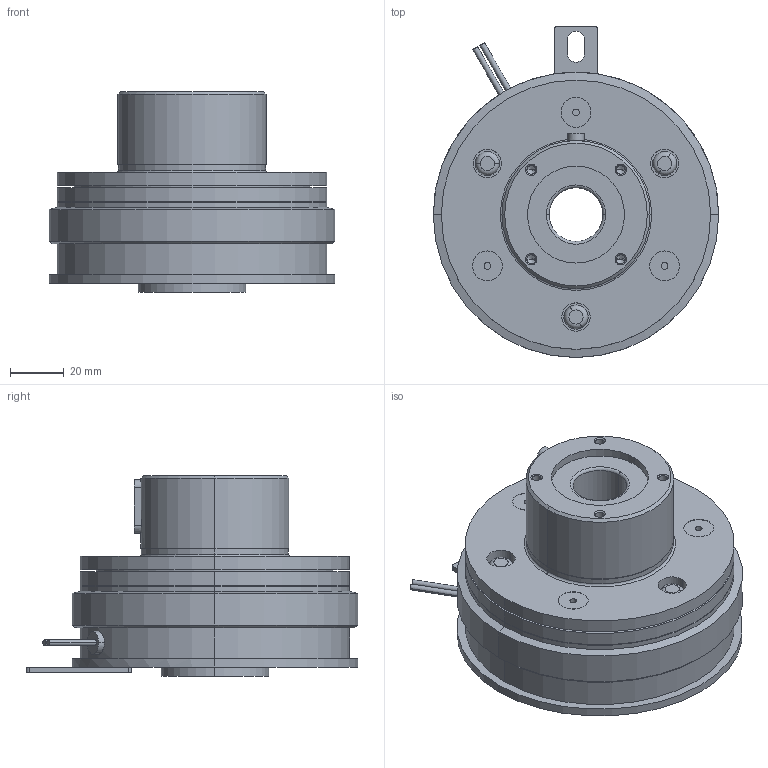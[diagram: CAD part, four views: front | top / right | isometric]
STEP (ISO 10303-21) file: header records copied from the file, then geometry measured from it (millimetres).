
FILE_DESCRIPTION (( 'STEP AP214' ), '1' );
FILE_NAME ('CS-10-35G R20DIN A20DIN.STEP', '2018-02-21T07:23:19', ( 'MIKI' ), ( '' ), 'SwSTEP 2.0', 'SolidWorks 2012', '' );
FILE_SCHEMA (( 'AUTOMOTIVE_DESIGN' ));
Length unit declared in the file: millimetre
Products named in the file (1): CS-10-35G R20DIN A20DIN
Bounding box: 106 x 123 x 74.6 mm (x, y, z)
Volume: 372838.2 mm3; surface area: 63440.5 mm2
Topology: 1 solids, 5 shells, 238 faces, 509 edges, 312 vertices
Faces by surface type: cylinder 118, plane 64, cone 40, torus 16
Entity records: 9159 total; most frequent: DIRECTION 1251, CARTESIAN_POINT 1179, ORIENTED_EDGE 986, AXIS2_PLACEMENT_3D 528, EDGE_CURVE 493, VERTEX_POINT 312, EDGE_LOOP 291, CIRCLE 289
